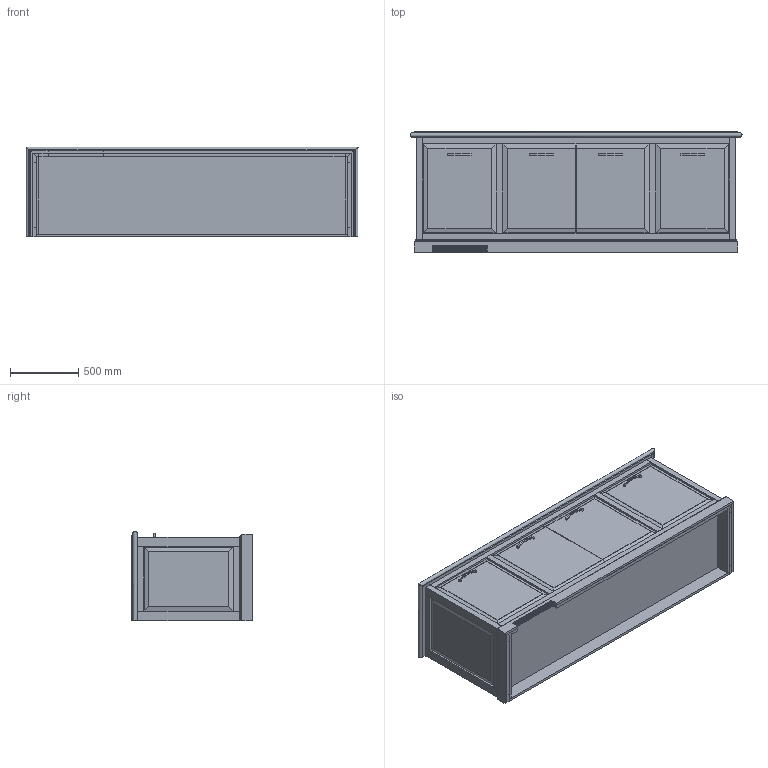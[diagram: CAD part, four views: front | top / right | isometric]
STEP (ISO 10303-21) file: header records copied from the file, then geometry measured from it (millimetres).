
FILE_DESCRIPTION(/* description */ ('','CAx-IF Rec.Pracs.---Representation and Presentation of Product Manufacturing Information (PMI)---4.0---2014-10-13'),/* implementation_level */ '2;1');
FILE_NAME(/* name */ 'CREDENZA STORAGE_CAMBRIDGE 1.stp',/* time_stamp */ '2024-12-07T17:43:18-05:00',/* author */ ('mbowman'),/* organization */ (''),/* preprocessor_version */ 'ST-DEVELOPER v19.2',/* originating_system */ 'Autodesk Inventor 2023',/* authorisation */ '');
FILE_SCHEMA (('AP242_MANAGED_MODEL_BASED_3D_ENGINEERING_MIM_LF { 1 0 10303 442 1 1 4 }'));
Length unit declared in the file: inch
Products named in the file (3): CAMBRIDGE^CREDENZA 3_26x96 4 DOOR W VENT-SOLID ASSEMBLY; CAMBRIDGE^CREDENZA 3_26x96 4 DOOR W VENT-PARTS SOLID; ART DECCO^GLAM-HAFELE 110_34_286
Assembly tree (5 placements, depth 2):
  CAMBRIDGE^CREDENZA 3_26x96 4 DOOR W VENT-SOLID ASSEMBLY
    CAMBRIDGE^CREDENZA 3_26x96 4 DOOR W VENT-PARTS SOLID
    ART DECCO^GLAM-HAFELE 110_34_286  x4
Bounding box: 2438.39 x 889 x 660.39 mm (x, y, z)
Volume: 225792525.8 mm3; surface area: 20282194 mm2
Topology: 36 solids, 36 shells, 586 faces, 1480 edges, 968 vertices
Faces by surface type: plane 321, cylinder 233, torus 32
Full cylindrical faces by diameter (mm): 6.35 x147
Entity records: 18732 total; most frequent: CARTESIAN_POINT 3611, DIRECTION 2956, ORIENTED_EDGE 2696, EDGE_CURVE 1348, AXIS2_PLACEMENT_3D 1029, LINE 898, VECTOR 898, VERTEX_POINT 884
